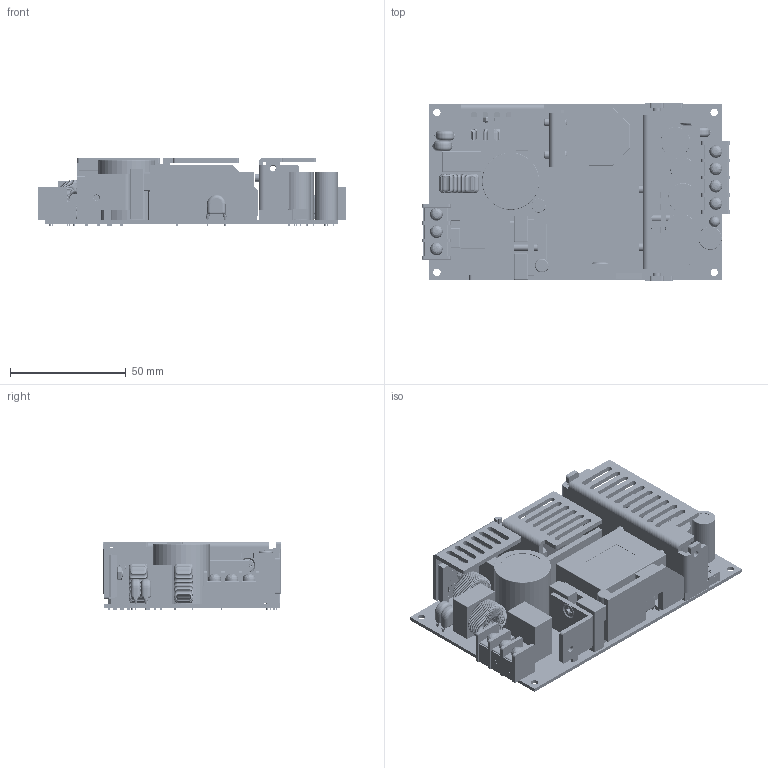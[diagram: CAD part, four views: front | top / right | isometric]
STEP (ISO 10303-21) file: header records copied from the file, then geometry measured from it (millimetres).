
FILE_DESCRIPTION(/* description */ (''),/* implementation_level */ '2;1');
FILE_NAME(/* name */ 'D:\Inventor\3D Files\200508\AQF120O.stp',/* time_stamp */ '2020-04-23T16:12:39+08:00',/* author */ ('peter'),/* organization */ (''),/* preprocessor_version */ 'ST-DEVELOPER v15.2',/* originating_system */ 'Autodesk Inventor 2014',/* authorisation */ '');
FILE_SCHEMA (('AUTOMOTIVE_DESIGN { 1 0 10303 214 3 1 1 }'));
Length unit declared in the file: millimetre
Products named in the file (37): PCB; X3 HEATSINK; INSULATOR TO-220; I HEATSINK; SCREW PH M3_12 mm; X2 HEATSINK; SCREW PH M3_10 mm; X1 HEATSINK; TO-220FP; TO-220FP_1; SCREW CH_W  M3_8mm; BD1; SCREW PH M3_8mm; M3; VR; INLET 9 mm; INLET 9 mm_1; INLET 9 mm_2; INLET - IN; INLET 9 mm_3; INLET 9 mm_4; INLET 9 mm_5; INLET 9 mm_6; INLET - OUT; LED; L1; L1_1; Y -- C; Y -- C_1; Y -- C_2; Y -- C_3; Y -- C_4; LABEL - 24S
Bounding box: 133.4 x 77 x 29.6 mm (x, y, z)
Volume: 120472.3 mm3; surface area: 81539.3 mm2
Topology: 44 solids, 218 shells, 7397 faces, 14461 edges, 7307 vertices
Faces by surface type: cylinder 2842, torus 2839, plane 1371, bspline 277, cone 51, sphere 17
Full cylindrical faces by diameter (mm): 0.45 x3, 0.5 x1, 0.6 x16, 1.85 x2, 2.459 x11, 3 x5, 3.1 x2, 3.2 x9, 3.5 x7, 4.219 x1, 4.7 x1, 5.5 x7, 5.8 x5, 6 x1, 6.129 x1, 6.353 x1, 8.825 x1, 8.853 x1, 9.476 x1, 10.037 x1, 10.297 x1, 12.809 x2, 12.995 x1, 19.003 x1, 24.791 x1
Entity records: 201187 total; most frequent: CARTESIAN_POINT 51472, DIRECTION 33980, ORIENTED_EDGE 30656, AXIS2_PLACEMENT_3D 14905, EDGE_CURVE 13931, EDGE_LOOP 7600, ADVANCED_FACE 7274, FACE_OUTER_BOUND 7212
